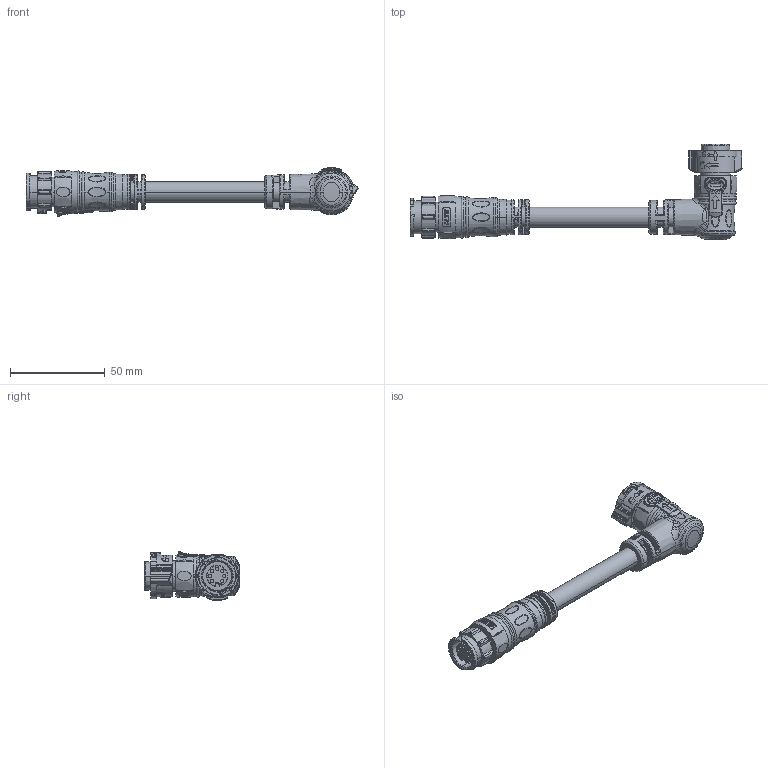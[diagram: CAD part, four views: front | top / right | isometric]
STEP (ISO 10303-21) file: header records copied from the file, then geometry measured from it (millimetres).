
FILE_DESCRIPTION((''),'2;1');
FILE_NAME('AB-CD07HL-CDBR-QDXXX_SW0001','2021-10-26T',('L100003'),(''),'PRO/ENGINEER BY PARAMETRIC TECHNOLOGY CORPORATION, 2017170','PRO/ENGINEER BY PARAMETRIC TECHNOLOGY CORPORATION, 2017170','');
FILE_SCHEMA(('CONFIG_CONTROL_DESIGN'));
Products named in the file (1): AB-CD07HL-CDBR-QDXXX_SW0001
Bounding box: 174.8 x 50.04 x 25.76 mm (x, y, z)
Volume: 45339 mm3; surface area: 17663 mm2
Topology: 3 solids, 9 shells, 1951 faces, 5182 edges, 3317 vertices
Faces by surface type: plane 684, bspline 384, cylinder 366, extrusion 272, torus 114, cone 108, sphere 21, revolution 2
Entity records: 91209 total; most frequent: CARTESIAN_POINT 47088, ORIENTED_EDGE 10334, DIRECTION 7406, EDGE_CURVE 5167, VERTEX_POINT 3317, AXIS2_PLACEMENT_3D 2660, B_SPLINE_CURVE_WITH_KNOTS 2262, VECTOR 2084
